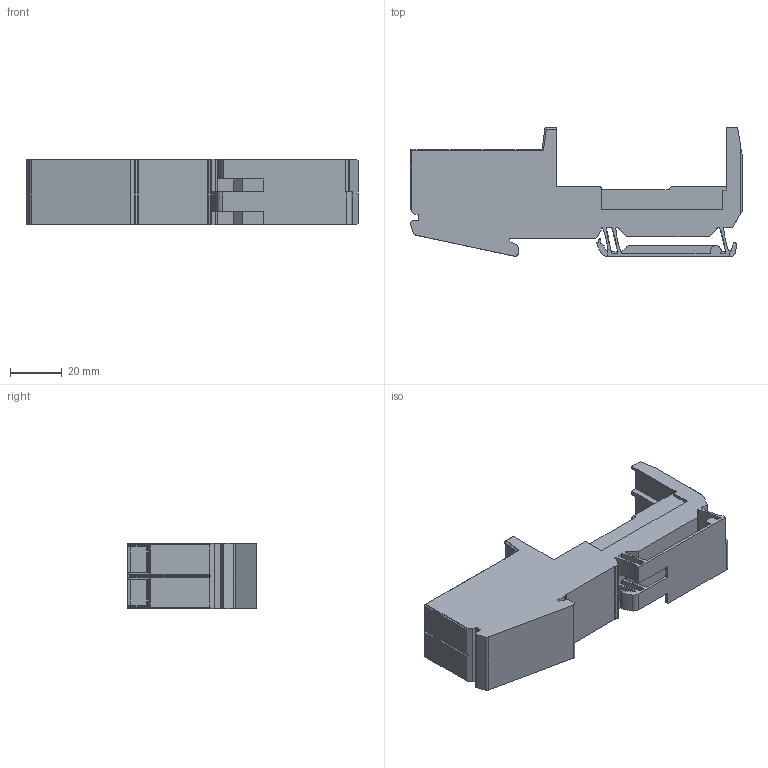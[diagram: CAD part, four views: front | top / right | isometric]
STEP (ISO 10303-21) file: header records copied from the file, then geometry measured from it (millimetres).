
FILE_DESCRIPTION((''),'2;1');
FILE_NAME('2007456','2010-06-25T',('smayer'),(''),'PRO/ENGINEER BY PARAMETRIC TECHNOLOGY CORPORATION, 2009380','PRO/ENGINEER BY PARAMETRIC TECHNOLOGY CORPORATION, 2009380','');
FILE_SCHEMA(('AUTOMOTIVE_DESIGN_CC2 { 1 2 10303 214 -1 1 5 2 }'));
Length unit declared in the file: millimetre
Products named in the file (1): 2007456
Bounding box: 128.7 x 49.85 x 25.2 mm (x, y, z)
Volume: 86784.7 mm3; surface area: 23284.3 mm2
Topology: 1 solids, 3 shells, 702 faces, 2000 edges, 1324 vertices
Faces by surface type: plane 525, cylinder 155, cone 14, bspline 4, torus 4
Entity records: 29101 total; most frequent: CARTESIAN_POINT 4565, ORIENTED_EDGE 3980, DIRECTION 3682, PRESENTATION_STYLE_ASSIGNMENT 1991, STYLED_ITEM 1991, CURVE_STYLE 1990, EDGE_CURVE 1990, VECTOR 1578
